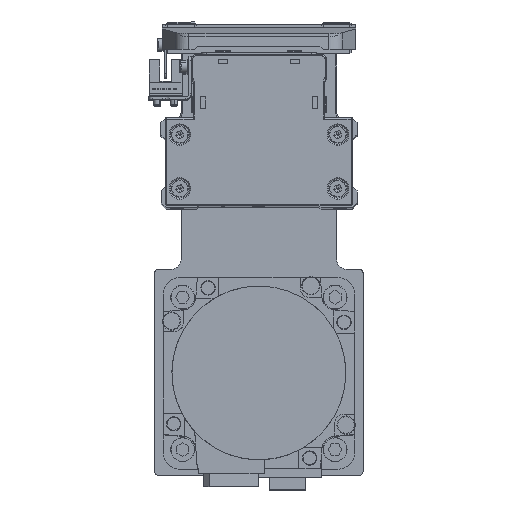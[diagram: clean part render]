
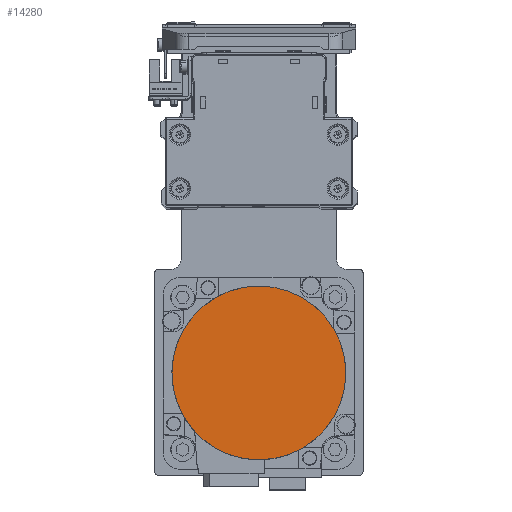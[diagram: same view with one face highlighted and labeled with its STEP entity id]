
A CAD part, top view. The second image highlights one B-rep face of the part: STEP entity #14280.
In plain terms, the highlighted planar face has unit normal (0, 0, 1) as drawn and (0, 0, -1) by its records, which use the part's own axes.
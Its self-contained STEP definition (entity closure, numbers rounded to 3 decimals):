
#228 = ORIENTED_EDGE ( 'NONE', *, *, #28337, .F. ) ;
#2113 = CARTESIAN_POINT ( 'NONE',  ( 0., 0., -122.2 ) ) ;
#2606 = VERTEX_POINT ( 'NONE', #20610 ) ;
#2645 = EDGE_LOOP ( 'NONE', ( #228, #18514 ) ) ;
#3682 = AXIS2_PLACEMENT_3D ( 'NONE', #6368, #18411, #30464 ) ;
#6368 = CARTESIAN_POINT ( 'NONE',  ( 0., 0., -122.2 ) ) ;
#7210 = AXIS2_PLACEMENT_3D ( 'NONE', #2113, #14163, #26249 ) ;
#10112 = CARTESIAN_POINT ( 'NONE',  ( 0., 0., -122.2 ) ) ;
#14163 = DIRECTION ( 'NONE',  ( 0., 0., 1. ) ) ;
#14280 = ADVANCED_FACE ( 'NONE', ( #25145 ), #37194, .F. ) ;
#15463 = CARTESIAN_POINT ( 'NONE',  ( 0., -36.3, -122.2 ) ) ;
#18411 = DIRECTION ( 'NONE',  ( 0., 0., 1. ) ) ;
#18514 = ORIENTED_EDGE ( 'NONE', *, *, #34278, .F. ) ;
#20610 = CARTESIAN_POINT ( 'NONE',  ( 0., 36.3, -122.2 ) ) ;
#20715 = CIRCLE ( 'NONE', #3682, 36.3 ) ;
#22163 = DIRECTION ( 'NONE',  ( 0., 0., 1. ) ) ;
#24258 = CIRCLE ( 'NONE', #7210, 36.3 ) ;
#25145 = FACE_OUTER_BOUND ( 'NONE', #2645, .T. ) ;
#26249 = DIRECTION ( 'NONE',  ( 0., -1., 0. ) ) ;
#28337 = EDGE_CURVE ( 'NONE', #2606, #37343, #20715, .T. ) ;
#30464 = DIRECTION ( 'NONE',  ( 0., 1., 0. ) ) ;
#34195 = DIRECTION ( 'NONE',  ( 1., 0., 0. ) ) ;
#34278 = EDGE_CURVE ( 'NONE', #37343, #2606, #24258, .T. ) ;
#34980 = AXIS2_PLACEMENT_3D ( 'NONE', #10112, #22163, #34195 ) ;
#37194 = PLANE ( 'NONE',  #34980 ) ;
#37343 = VERTEX_POINT ( 'NONE', #15463 ) ;
